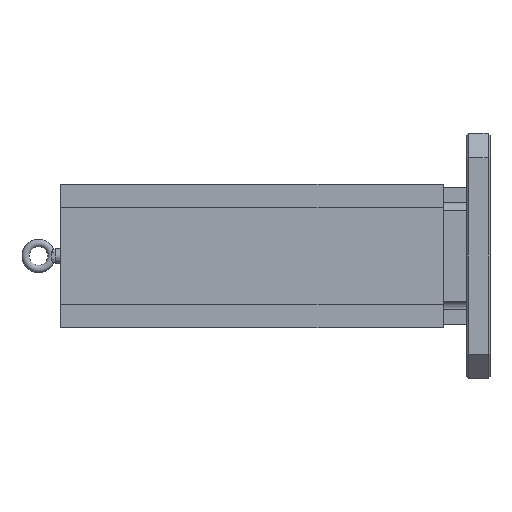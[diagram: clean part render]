
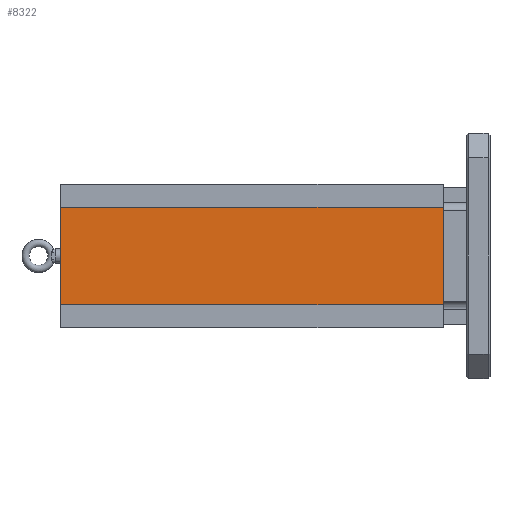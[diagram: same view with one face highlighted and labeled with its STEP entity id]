
A CAD part, left-side view. The second image highlights one B-rep face of the part: STEP entity #8322.
In plain terms, the highlighted planar face has unit normal (-1, 0, 0).
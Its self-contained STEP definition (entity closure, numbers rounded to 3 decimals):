
#67 = CARTESIAN_POINT ( 'NONE',  ( -116.992, 38.1, -79.273 ) ) ;
#438 = CARTESIAN_POINT ( 'NONE',  ( -116.992, 38.1, 79.273 ) ) ;
#764 = ORIENTED_EDGE ( 'NONE', *, *, #5716, .F. ) ;
#1435 = CARTESIAN_POINT ( 'NONE',  ( -116.992, 662., 79.273 ) ) ;
#1482 = LINE ( 'NONE', #3209, #2939 ) ;
#2069 = VERTEX_POINT ( 'NONE', #67 ) ;
#2366 = VERTEX_POINT ( 'NONE', #5283 ) ;
#2528 = VECTOR ( 'NONE', #10426, 1000. ) ;
#2711 = AXIS2_PLACEMENT_3D ( 'NONE', #3440, #7110, #7819 ) ;
#2753 = CARTESIAN_POINT ( 'NONE',  ( -116.992, 38.1, -79.273 ) ) ;
#2939 = VECTOR ( 'NONE', #5114, 1000. ) ;
#3209 = CARTESIAN_POINT ( 'NONE',  ( -116.992, 662., -79.273 ) ) ;
#3262 = PLANE ( 'NONE',  #2711 ) ;
#3440 = CARTESIAN_POINT ( 'NONE',  ( -116.992, 662., -79.273 ) ) ;
#4123 = VERTEX_POINT ( 'NONE', #10353 ) ;
#4721 = LINE ( 'NONE', #2753, #10771 ) ;
#4885 = EDGE_CURVE ( 'NONE', #2366, #2069, #5143, .T. ) ;
#5114 = DIRECTION ( 'NONE',  ( 0., 0., 1. ) ) ;
#5143 = LINE ( 'NONE', #10368, #2528 ) ;
#5158 = ORIENTED_EDGE ( 'NONE', *, *, #5162, .F. ) ;
#5162 = EDGE_CURVE ( 'NONE', #5764, #2069, #4721, .T. ) ;
#5283 = CARTESIAN_POINT ( 'NONE',  ( -116.992, 662., -79.273 ) ) ;
#5392 = EDGE_CURVE ( 'NONE', #4123, #5764, #8928, .T. ) ;
#5716 = EDGE_CURVE ( 'NONE', #2366, #4123, #1482, .T. ) ;
#5764 = VERTEX_POINT ( 'NONE', #438 ) ;
#5984 = VECTOR ( 'NONE', #11556, 1000. ) ;
#7110 = DIRECTION ( 'NONE',  ( 1., 0., 0. ) ) ;
#7819 = DIRECTION ( 'NONE',  ( 0., 0., -1. ) ) ;
#8151 = EDGE_LOOP ( 'NONE', ( #5158, #9853, #764, #10041 ) ) ;
#8322 = ADVANCED_FACE ( 'NONE', ( #8718 ), #3262, .F. ) ;
#8383 = DIRECTION ( 'NONE',  ( 0., 0., -1. ) ) ;
#8718 = FACE_OUTER_BOUND ( 'NONE', #8151, .T. ) ;
#8928 = LINE ( 'NONE', #1435, #5984 ) ;
#9853 = ORIENTED_EDGE ( 'NONE', *, *, #5392, .F. ) ;
#10041 = ORIENTED_EDGE ( 'NONE', *, *, #4885, .T. ) ;
#10353 = CARTESIAN_POINT ( 'NONE',  ( -116.992, 662., 79.273 ) ) ;
#10368 = CARTESIAN_POINT ( 'NONE',  ( -116.992, 662., -79.273 ) ) ;
#10426 = DIRECTION ( 'NONE',  ( 0., -1., 0. ) ) ;
#10771 = VECTOR ( 'NONE', #8383, 1000. ) ;
#11556 = DIRECTION ( 'NONE',  ( 0., -1., 0. ) ) ;
